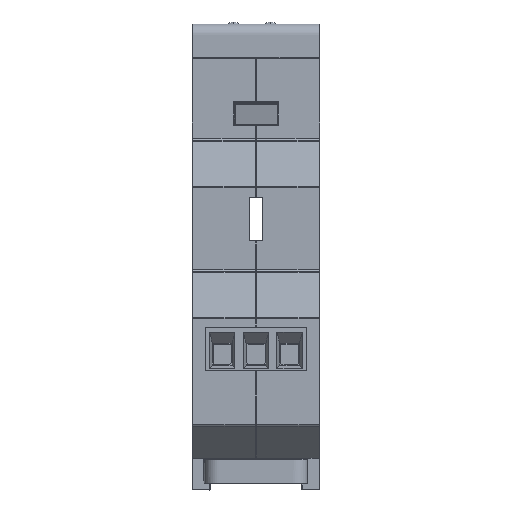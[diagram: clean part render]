
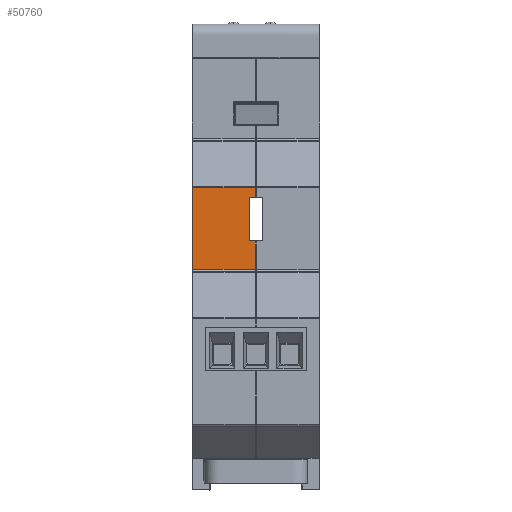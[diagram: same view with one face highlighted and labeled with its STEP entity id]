
A CAD part, front view. The second image highlights one B-rep face of the part: STEP entity #50760.
In plain terms, the highlighted planar face has unit normal (0, -1, 0).
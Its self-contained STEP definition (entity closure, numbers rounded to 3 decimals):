
#1342 = CARTESIAN_POINT ( 'NONE',  ( 8.671, -33.602, 37.356 ) ) ;
#1902 = CARTESIAN_POINT ( 'NONE',  ( 7.791, -33.602, 31.93 ) ) ;
#3935 = EDGE_CURVE ( 'NONE', #103872, #89294, #50659, .T. ) ;
#5127 = CARTESIAN_POINT ( 'NONE',  ( 8.671, -33.602, 27.31 ) ) ;
#5579 = B_SPLINE_CURVE_WITH_KNOTS ( 'NONE', 3,
 ( #70888, #98839, #6214, #71270 ),
 .UNSPECIFIED., .F., .F.,
 ( 4, 4 ),
 ( 0., 1. ),
 .UNSPECIFIED. ) ;
#6214 = CARTESIAN_POINT ( 'NONE',  ( 8.084, -33.602, 29.93 ) ) ;
#8410 = CARTESIAN_POINT ( 'NONE',  ( 8.671, -33.602, 36.881 ) ) ;
#8475 = CARTESIAN_POINT ( 'NONE',  ( 8.084, -33.602, 35.93 ) ) ;
#8888 = CARTESIAN_POINT ( 'NONE',  ( 8.378, -33.602, 35.93 ) ) ;
#8957 = CARTESIAN_POINT ( 'NONE',  ( 8.671, -33.602, 36.405 ) ) ;
#9606 = CARTESIAN_POINT ( 'NONE',  ( 8.671, -33.602, 35.93 ) ) ;
#10152 = CARTESIAN_POINT ( 'NONE',  ( 8.671, -33.602, 37.356 ) ) ;
#11407 = DIRECTION ( 'NONE',  ( -1., 0., 0. ) ) ;
#19427 = B_SPLINE_CURVE_WITH_KNOTS ( 'NONE', 3,
 ( #27500, #64194, #101888, #46163 ),
 .UNSPECIFIED., .F., .F.,
 ( 4, 4 ),
 ( 0., 1. ),
 .UNSPECIFIED. ) ;
#20293 = CARTESIAN_POINT ( 'NONE',  ( -0.069, -33.6, 25.7 ) ) ;
#22727 = EDGE_CURVE ( 'NONE', #85912, #24048, #76421, .T. ) ;
#24048 = VERTEX_POINT ( 'NONE', #113242 ) ;
#26342 = CARTESIAN_POINT ( 'NONE',  ( -0.009, -33.6, 33.571 ) ) ;
#27500 = CARTESIAN_POINT ( 'NONE',  ( -0.009, -33.6, 26. ) ) ;
#27942 = CARTESIAN_POINT ( 'NONE',  ( -0.009, -33.6, 29.785 ) ) ;
#28031 = CARTESIAN_POINT ( 'NONE',  ( 8.671, -33.602, 29.93 ) ) ;
#35255 = VERTEX_POINT ( 'NONE', #74552 ) ;
#36425 = CARTESIAN_POINT ( 'NONE',  ( 7.791, -33.602, 29.93 ) ) ;
#36534 = CARTESIAN_POINT ( 'NONE',  ( 5.778, -33.602, 37.356 ) ) ;
#43204 = CARTESIAN_POINT ( 'NONE',  ( 8.671, -33.602, 28.62 ) ) ;
#45343 = CARTESIAN_POINT ( 'NONE',  ( 7.791, -33.602, 35.93 ) ) ;
#46163 = CARTESIAN_POINT ( 'NONE',  ( 8.671, -33.602, 26. ) ) ;
#48670 = ORIENTED_EDGE ( 'NONE', *, *, #107702, .T. ) ;
#48683 = EDGE_CURVE ( 'NONE', #87136, #111221, #92807, .T. ) ;
#50337 = CARTESIAN_POINT ( 'NONE',  ( -0.009, -33.6, 26. ) ) ;
#50659 = B_SPLINE_CURVE_WITH_KNOTS ( 'NONE', 3,
 ( #9606, #8957, #8410, #10152 ),
 .UNSPECIFIED., .F., .F.,
 ( 4, 4 ),
 ( 0., 1. ),
 .UNSPECIFIED. ) ;
#50760 = ADVANCED_FACE ( 'NONE', ( #79915 ), #57709, .T. ) ;
#50899 = ORIENTED_EDGE ( 'NONE', *, *, #61275, .T. ) ;
#52609 = CARTESIAN_POINT ( 'NONE',  ( 8.671, -33.602, 26. ) ) ;
#54096 = B_SPLINE_CURVE_WITH_KNOTS ( 'NONE', 3,
 ( #45343, #8475, #8888, #73934 ),
 .UNSPECIFIED., .F., .F.,
 ( 4, 4 ),
 ( 0., 1. ),
 .UNSPECIFIED. ) ;
#55153 = EDGE_CURVE ( 'NONE', #24048, #103872, #54096, .T. ) ;
#55277 = CARTESIAN_POINT ( 'NONE',  ( -0.009, -33.6, 37.356 ) ) ;
#57709 = PLANE ( 'NONE',  #81272 ) ;
#57952 = CARTESIAN_POINT ( 'NONE',  ( 7.791, -33.602, 33.93 ) ) ;
#58522 = EDGE_LOOP ( 'NONE', ( #73777, #99442, #50899, #62380, #60368, #48670, #89757, #104814 ) ) ;
#60368 = ORIENTED_EDGE ( 'NONE', *, *, #48683, .T. ) ;
#61275 = EDGE_CURVE ( 'NONE', #35255, #111726, #118200, .T. ) ;
#62022 = CARTESIAN_POINT ( 'NONE',  ( 8.671, -33.602, 29.93 ) ) ;
#62380 = ORIENTED_EDGE ( 'NONE', *, *, #120205, .T. ) ;
#64194 = CARTESIAN_POINT ( 'NONE',  ( 2.884, -33.601, 26. ) ) ;
#65481 = CARTESIAN_POINT ( 'NONE',  ( 8.671, -33.602, 26. ) ) ;
#67141 = DIRECTION ( 'NONE',  ( 0., -1., 0. ) ) ;
#70888 = CARTESIAN_POINT ( 'NONE',  ( 8.671, -33.602, 29.93 ) ) ;
#71270 = CARTESIAN_POINT ( 'NONE',  ( 7.791, -33.602, 29.93 ) ) ;
#73777 = ORIENTED_EDGE ( 'NONE', *, *, #3935, .T. ) ;
#73934 = CARTESIAN_POINT ( 'NONE',  ( 8.671, -33.602, 35.93 ) ) ;
#74552 = CARTESIAN_POINT ( 'NONE',  ( -0.009, -33.6, 37.356 ) ) ;
#76421 = B_SPLINE_CURVE_WITH_KNOTS ( 'NONE', 3,
 ( #76715, #1902, #57952, #86009 ),
 .UNSPECIFIED., .F., .F.,
 ( 4, 4 ),
 ( 0., 1. ),
 .UNSPECIFIED. ) ;
#76715 = CARTESIAN_POINT ( 'NONE',  ( 7.791, -33.602, 29.93 ) ) ;
#79915 = FACE_OUTER_BOUND ( 'NONE', #58522, .T. ) ;
#81272 = AXIS2_PLACEMENT_3D ( 'NONE', #20293, #67141, #11407 ) ;
#85912 = VERTEX_POINT ( 'NONE', #36425 ) ;
#86009 = CARTESIAN_POINT ( 'NONE',  ( 7.791, -33.602, 35.93 ) ) ;
#87136 = VERTEX_POINT ( 'NONE', #65481 ) ;
#89294 = VERTEX_POINT ( 'NONE', #1342 ) ;
#89757 = ORIENTED_EDGE ( 'NONE', *, *, #22727, .T. ) ;
#91425 = CARTESIAN_POINT ( 'NONE',  ( -0.009, -33.6, 37.356 ) ) ;
#92807 = B_SPLINE_CURVE_WITH_KNOTS ( 'NONE', 3,
 ( #52609, #5127, #43204, #62022 ),
 .UNSPECIFIED., .F., .F.,
 ( 4, 4 ),
 ( 0., 1. ),
 .UNSPECIFIED. ) ;
#93011 = CARTESIAN_POINT ( 'NONE',  ( -0.009, -33.6, 26. ) ) ;
#93048 = EDGE_CURVE ( 'NONE', #89294, #35255, #98309, .T. ) ;
#98309 = B_SPLINE_CURVE_WITH_KNOTS ( 'NONE', 3,
 ( #101600, #36534, #110940, #55277 ),
 .UNSPECIFIED., .F., .F.,
 ( 4, 4 ),
 ( 0., 1. ),
 .UNSPECIFIED. ) ;
#98839 = CARTESIAN_POINT ( 'NONE',  ( 8.378, -33.602, 29.93 ) ) ;
#99442 = ORIENTED_EDGE ( 'NONE', *, *, #93048, .T. ) ;
#101600 = CARTESIAN_POINT ( 'NONE',  ( 8.671, -33.602, 37.356 ) ) ;
#101888 = CARTESIAN_POINT ( 'NONE',  ( 5.778, -33.602, 26. ) ) ;
#103605 = CARTESIAN_POINT ( 'NONE',  ( 8.671, -33.602, 35.93 ) ) ;
#103872 = VERTEX_POINT ( 'NONE', #103605 ) ;
#104814 = ORIENTED_EDGE ( 'NONE', *, *, #55153, .T. ) ;
#107702 = EDGE_CURVE ( 'NONE', #111221, #85912, #5579, .T. ) ;
#110940 = CARTESIAN_POINT ( 'NONE',  ( 2.884, -33.601, 37.356 ) ) ;
#111221 = VERTEX_POINT ( 'NONE', #28031 ) ;
#111726 = VERTEX_POINT ( 'NONE', #50337 ) ;
#113242 = CARTESIAN_POINT ( 'NONE',  ( 7.791, -33.602, 35.93 ) ) ;
#118200 = B_SPLINE_CURVE_WITH_KNOTS ( 'NONE', 3,
 ( #91425, #26342, #27942, #93011 ),
 .UNSPECIFIED., .F., .F.,
 ( 4, 4 ),
 ( 0., 1. ),
 .UNSPECIFIED. ) ;
#120205 = EDGE_CURVE ( 'NONE', #111726, #87136, #19427, .T. ) ;
